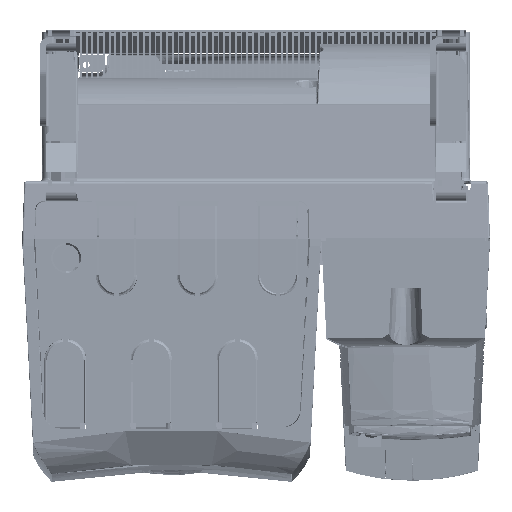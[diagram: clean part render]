
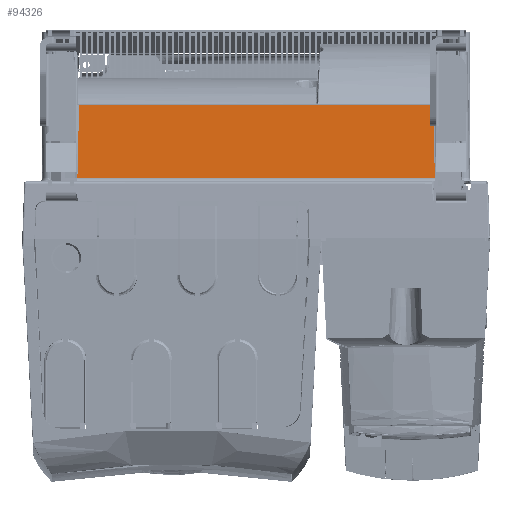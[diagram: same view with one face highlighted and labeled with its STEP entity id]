
A CAD part, top view. The second image highlights one B-rep face of the part: STEP entity #94326.
In plain terms, the highlighted planar face has unit normal (0, 0.035, 0.999).
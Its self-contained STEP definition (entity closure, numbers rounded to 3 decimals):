
#27350=DIRECTION('',(1.,0.,0.));
#27351=VECTOR('',#27350,234.615);
#27352=CARTESIAN_POINT('',(-222.308,112.717,
576.011));
#27353=LINE('',#27352,#27351);
#27354=CARTESIAN_POINT('',(12.308,112.717,576.011));
#27355=CARTESIAN_POINT('',(12.321,109.543,576.122));
#27356=CARTESIAN_POINT('',(12.356,103.455,576.335));
#27357=CARTESIAN_POINT('',(12.433,95.129,576.625));
#27358=CARTESIAN_POINT('',(12.536,87.55,576.89));
#27359=CARTESIAN_POINT('',(12.668,80.685,577.13));
#27360=CARTESIAN_POINT('',(12.834,74.489,577.346));
#27361=CARTESIAN_POINT('',(13.062,68.907,577.541));
#27362=CARTESIAN_POINT('',(13.26,65.524,577.659));
#27363=CARTESIAN_POINT('',(13.446,63.93,577.715));
#27365=DIRECTION('',(-1.,0.,0.));
#27366=VECTOR('',#27365,236.892);
#27367=CARTESIAN_POINT('',(13.446,63.93,577.715));
#27368=LINE('',#27367,#27366);
#27369=CARTESIAN_POINT('',(-222.308,112.717,
576.011));
#27370=CARTESIAN_POINT('',(-222.321,109.425,
576.126));
#27371=CARTESIAN_POINT('',(-222.358,103.183,
576.344));
#27372=CARTESIAN_POINT('',(-222.435,94.949,
576.632));
#27373=CARTESIAN_POINT('',(-222.536,87.549,
576.89));
#27374=CARTESIAN_POINT('',(-222.665,80.818,
577.125));
#27375=CARTESIAN_POINT('',(-222.83,74.613,
577.342));
#27376=CARTESIAN_POINT('',(-223.059,68.962,
577.539));
#27377=CARTESIAN_POINT('',(-223.257,65.543,
577.658));
#27378=CARTESIAN_POINT('',(-223.446,63.93,
577.715));
#34185=CARTESIAN_POINT('',(-222.308,112.717,
576.011));
#70420=CARTESIAN_POINT('',(-223.446,63.93,
577.715));
#70422=VERTEX_POINT('',#70420);
#70424=CARTESIAN_POINT('',(13.446,63.93,577.715));
#70426=VERTEX_POINT('',#70424);
#70434=VERTEX_POINT('',#34185);
#70436=CARTESIAN_POINT('',(12.308,112.717,576.011));
#70437=VERTEX_POINT('',#70436);
#94311=CARTESIAN_POINT('',(-260.,113.2,575.994));
#94312=DIRECTION('',(0.,0.035,0.999));
#94313=DIRECTION('',(0.,-0.999,0.035));
#94314=AXIS2_PLACEMENT_3D('',#94311,#94312,#94313);
#94315=PLANE('',#94314);
#94317=ORIENTED_EDGE('',*,*,#94316,.T.);
#94319=ORIENTED_EDGE('',*,*,#94318,.T.);
#94321=ORIENTED_EDGE('',*,*,#94320,.T.);
#94323=ORIENTED_EDGE('',*,*,#94322,.F.);
#94324=EDGE_LOOP('',(#94317,#94319,#94321,#94323));
#94325=FACE_OUTER_BOUND('',#94324,.F.);
#94326=ADVANCED_FACE('',(#94325),#94315,.T.);
#27364=B_SPLINE_CURVE_WITH_KNOTS('',3,(#27354,#27355,#27356,#27357,#27358,
#27359,#27360,#27361,#27362,#27363),.UNSPECIFIED.,.F.,.F.,(4,1,1,1,1,1,1,4),(
0.,0.143,0.286,0.429,0.571,
0.714,0.857,1.),.UNSPECIFIED.);
#27379=B_SPLINE_CURVE_WITH_KNOTS('',3,(#27369,#27370,#27371,#27372,#27373,
#27374,#27375,#27376,#27377,#27378),.UNSPECIFIED.,.F.,.F.,(4,1,1,1,1,1,1,4),(
0.,0.143,0.286,0.429,0.571,
0.714,0.857,1.),.UNSPECIFIED.);
#94316=EDGE_CURVE('',#70434,#70437,#27353,.T.);
#94318=EDGE_CURVE('',#70437,#70426,#27364,.T.);
#94320=EDGE_CURVE('',#70426,#70422,#27368,.T.);
#94322=EDGE_CURVE('',#70434,#70422,#27379,.T.);
